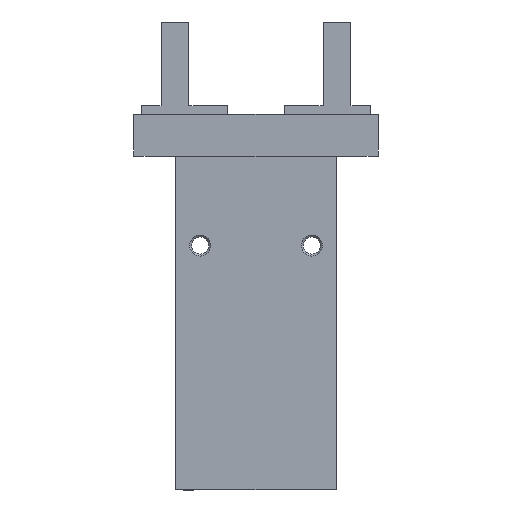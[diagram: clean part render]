
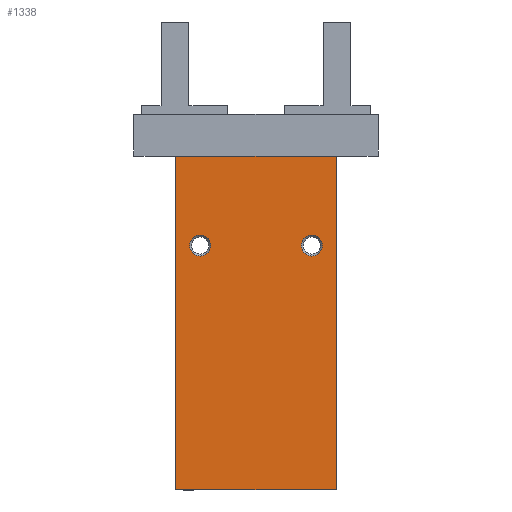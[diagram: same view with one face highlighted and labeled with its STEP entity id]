
A CAD part, front view. The second image highlights one B-rep face of the part: STEP entity #1338.
In plain terms, the highlighted planar face has unit normal (0, -1, 0).
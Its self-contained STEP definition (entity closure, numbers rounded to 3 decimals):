
#29 = DIRECTION ( 'NONE',  ( 0., 0., -1. ) ) ;
#30 = CIRCLE ( 'NONE', #1265, 1.5 ) ;
#45 = VECTOR ( 'NONE', #3704, 1000. ) ;
#93 = DIRECTION ( 'NONE',  ( 0., 1., 0. ) ) ;
#110 = DIRECTION ( 'NONE',  ( 0., 0., -1. ) ) ;
#115 = EDGE_CURVE ( 'NONE', #493, #1764, #3948, .T. ) ;
#139 = CIRCLE ( 'NONE', #3319, 1.5 ) ;
#212 = CARTESIAN_POINT ( 'NONE',  ( 8., -8.2, 35. ) ) ;
#323 = PLANE ( 'NONE',  #1567 ) ;
#340 = DIRECTION ( 'NONE',  ( 0., -1., 0. ) ) ;
#389 = CIRCLE ( 'NONE', #779, 1.5 ) ;
#408 = CARTESIAN_POINT ( 'NONE',  ( -11.5, -8.2, 47.8 ) ) ;
#411 = VERTEX_POINT ( 'NONE', #1949 ) ;
#467 = ORIENTED_EDGE ( 'NONE', *, *, #4269, .T. ) ;
#493 = VERTEX_POINT ( 'NONE', #869 ) ;
#567 = EDGE_CURVE ( 'NONE', #4309, #750, #139, .T. ) ;
#595 = CARTESIAN_POINT ( 'NONE',  ( -8., -8.2, 33.5 ) ) ;
#618 = DIRECTION ( 'NONE',  ( 0., 0., 1. ) ) ;
#678 = CARTESIAN_POINT ( 'NONE',  ( 11.5, -8.2, 47.8 ) ) ;
#741 = FACE_BOUND ( 'NONE', #3908, .T. ) ;
#750 = VERTEX_POINT ( 'NONE', #4162 ) ;
#779 = AXIS2_PLACEMENT_3D ( 'NONE', #2341, #2472, #2488 ) ;
#869 = CARTESIAN_POINT ( 'NONE',  ( -11.5, -8.2, 0. ) ) ;
#941 = LINE ( 'NONE', #2006, #3111 ) ;
#1064 = DIRECTION ( 'NONE',  ( 1., 0., 0. ) ) ;
#1188 = EDGE_CURVE ( 'NONE', #1985, #411, #30, .T. ) ;
#1261 = VERTEX_POINT ( 'NONE', #1551 ) ;
#1265 = AXIS2_PLACEMENT_3D ( 'NONE', #3690, #3660, #3619 ) ;
#1338 = ADVANCED_FACE ( 'NONE', ( #1636, #4321, #741 ), #323, .F. ) ;
#1398 = EDGE_CURVE ( 'NONE', #1764, #1261, #941, .T. ) ;
#1481 = CARTESIAN_POINT ( 'NONE',  ( -11.5, -8.2, 47.8 ) ) ;
#1551 = CARTESIAN_POINT ( 'NONE',  ( 11.5, -8.2, 47.8 ) ) ;
#1567 = AXIS2_PLACEMENT_3D ( 'NONE', #408, #93, #618 ) ;
#1576 = CARTESIAN_POINT ( 'NONE',  ( -11.5, -8.2, 47.8 ) ) ;
#1589 = DIRECTION ( 'NONE',  ( 0., 0., 1. ) ) ;
#1636 = FACE_OUTER_BOUND ( 'NONE', #2040, .T. ) ;
#1646 = ORIENTED_EDGE ( 'NONE', *, *, #115, .F. ) ;
#1691 = VECTOR ( 'NONE', #1589, 1000. ) ;
#1764 = VERTEX_POINT ( 'NONE', #1481 ) ;
#1880 = ORIENTED_EDGE ( 'NONE', *, *, #1188, .F. ) ;
#1942 = ORIENTED_EDGE ( 'NONE', *, *, #4165, .T. ) ;
#1949 = CARTESIAN_POINT ( 'NONE',  ( -8., -8.2, 36.5 ) ) ;
#1985 = VERTEX_POINT ( 'NONE', #595 ) ;
#2006 = CARTESIAN_POINT ( 'NONE',  ( -11.5, -8.2, 47.8 ) ) ;
#2040 = EDGE_LOOP ( 'NONE', ( #1942, #3484, #1646, #467 ) ) ;
#2116 = DIRECTION ( 'NONE',  ( 1., 0., 0. ) ) ;
#2296 = VECTOR ( 'NONE', #1064, 1000. ) ;
#2341 = CARTESIAN_POINT ( 'NONE',  ( -8., -8.2, 35. ) ) ;
#2376 = CIRCLE ( 'NONE', #4253, 1.5 ) ;
#2472 = DIRECTION ( 'NONE',  ( 0., -1., 0. ) ) ;
#2488 = DIRECTION ( 'NONE',  ( 0., 0., -1. ) ) ;
#2501 = EDGE_CURVE ( 'NONE', #750, #4309, #2376, .T. ) ;
#2591 = EDGE_CURVE ( 'NONE', #411, #1985, #389, .T. ) ;
#2667 = CARTESIAN_POINT ( 'NONE',  ( 8., -8.2, 35. ) ) ;
#2698 = ORIENTED_EDGE ( 'NONE', *, *, #2591, .F. ) ;
#2729 = CARTESIAN_POINT ( 'NONE',  ( 11.5, -8.2, 0. ) ) ;
#2744 = ORIENTED_EDGE ( 'NONE', *, *, #567, .F. ) ;
#2773 = CARTESIAN_POINT ( 'NONE',  ( 8., -8.2, 33.5 ) ) ;
#2864 = VERTEX_POINT ( 'NONE', #2729 ) ;
#2911 = ORIENTED_EDGE ( 'NONE', *, *, #2501, .F. ) ;
#3092 = CARTESIAN_POINT ( 'NONE',  ( 0., -8.2, 0. ) ) ;
#3111 = VECTOR ( 'NONE', #2116, 1000. ) ;
#3319 = AXIS2_PLACEMENT_3D ( 'NONE', #212, #340, #110 ) ;
#3484 = ORIENTED_EDGE ( 'NONE', *, *, #1398, .F. ) ;
#3552 = DIRECTION ( 'NONE',  ( 0., -1., 0. ) ) ;
#3619 = DIRECTION ( 'NONE',  ( 0., 0., -1. ) ) ;
#3650 = EDGE_LOOP ( 'NONE', ( #2744, #2911 ) ) ;
#3660 = DIRECTION ( 'NONE',  ( 0., -1., 0. ) ) ;
#3690 = CARTESIAN_POINT ( 'NONE',  ( -8., -8.2, 35. ) ) ;
#3704 = DIRECTION ( 'NONE',  ( 0., 0., 1. ) ) ;
#3707 = LINE ( 'NONE', #678, #45 ) ;
#3908 = EDGE_LOOP ( 'NONE', ( #1880, #2698 ) ) ;
#3948 = LINE ( 'NONE', #1576, #1691 ) ;
#3965 = LINE ( 'NONE', #3092, #2296 ) ;
#4162 = CARTESIAN_POINT ( 'NONE',  ( 8., -8.2, 36.5 ) ) ;
#4165 = EDGE_CURVE ( 'NONE', #2864, #1261, #3707, .T. ) ;
#4253 = AXIS2_PLACEMENT_3D ( 'NONE', #2667, #3552, #29 ) ;
#4269 = EDGE_CURVE ( 'NONE', #493, #2864, #3965, .T. ) ;
#4309 = VERTEX_POINT ( 'NONE', #2773 ) ;
#4321 = FACE_BOUND ( 'NONE', #3650, .T. ) ;
